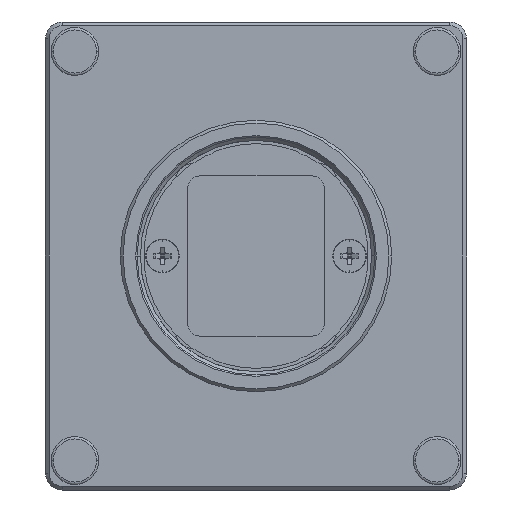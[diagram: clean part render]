
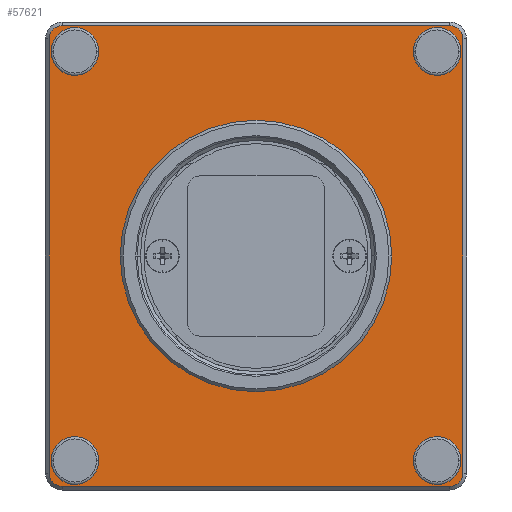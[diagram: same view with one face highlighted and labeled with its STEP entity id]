
A CAD part, left-side view. The second image highlights one B-rep face of the part: STEP entity #57621.
In plain terms, the highlighted planar face has unit normal (-1, 0, 0).
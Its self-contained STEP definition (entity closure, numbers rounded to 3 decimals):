
#9956=CARTESIAN_POINT('',(-9.,20.7,23.2));
#9957=DIRECTION('',(1.,0.,0.));
#9958=DIRECTION('',(0.,1.,0.));
#9959=AXIS2_PLACEMENT_3D('',#9956,#9957,#9958);
#9961=DIRECTION('',(0.,-1.,0.));
#9962=VECTOR('',#9961,41.4);
#9963=CARTESIAN_POINT('',(-9.,20.7,24.6));
#9964=LINE('',#9963,#9962);
#9965=CARTESIAN_POINT('',(-9.,-20.7,23.2));
#9966=DIRECTION('',(1.,0.,0.));
#9967=DIRECTION('',(0.,0.,1.));
#9968=AXIS2_PLACEMENT_3D('',#9965,#9966,#9967);
#9970=DIRECTION('',(0.,0.,-1.));
#9971=VECTOR('',#9970,46.4);
#9972=CARTESIAN_POINT('',(-9.,-22.1,23.2));
#9973=LINE('',#9972,#9971);
#9974=CARTESIAN_POINT('',(-9.,-20.7,-23.2));
#9975=DIRECTION('',(1.,0.,0.));
#9976=DIRECTION('',(0.,-1.,0.));
#9977=AXIS2_PLACEMENT_3D('',#9974,#9975,#9976);
#9979=DIRECTION('',(0.,1.,0.));
#9980=VECTOR('',#9979,41.4);
#9981=CARTESIAN_POINT('',(-9.,-20.7,-24.6));
#9982=LINE('',#9981,#9980);
#9983=CARTESIAN_POINT('',(-9.,20.7,-23.2));
#9984=DIRECTION('',(1.,0.,0.));
#9985=DIRECTION('',(0.,0.,-1.));
#9986=AXIS2_PLACEMENT_3D('',#9983,#9984,#9985);
#9988=DIRECTION('',(0.,0.,1.));
#9989=VECTOR('',#9988,46.4);
#9990=CARTESIAN_POINT('',(-9.,22.1,-23.2));
#9991=LINE('',#9990,#9989);
#9992=CARTESIAN_POINT('',(-9.,19.351,-21.851));
#9993=DIRECTION('',(-1.,0.,0.));
#9994=DIRECTION('',(0.,0.,1.));
#9995=AXIS2_PLACEMENT_3D('',#9992,#9993,#9994);
#9997=CARTESIAN_POINT('',(-9.,19.351,-21.851));
#9998=DIRECTION('',(-1.,0.,0.));
#9999=DIRECTION('',(0.,0.,-1.));
#10000=AXIS2_PLACEMENT_3D('',#9997,#9998,#9999);
#10002=CARTESIAN_POINT('',(-9.,19.351,21.851));
#10003=DIRECTION('',(-1.,0.,0.));
#10004=DIRECTION('',(0.,0.,1.));
#10005=AXIS2_PLACEMENT_3D('',#10002,#10003,#10004);
#10007=CARTESIAN_POINT('',(-9.,19.351,21.851));
#10008=DIRECTION('',(-1.,0.,0.));
#10009=DIRECTION('',(0.,0.,-1.));
#10010=AXIS2_PLACEMENT_3D('',#10007,#10008,#10009);
#10012=CARTESIAN_POINT('',(-9.,-19.351,21.851));
#10013=DIRECTION('',(-1.,0.,0.));
#10014=DIRECTION('',(0.,0.,1.));
#10015=AXIS2_PLACEMENT_3D('',#10012,#10013,#10014);
#10017=CARTESIAN_POINT('',(-9.,-19.351,21.851));
#10018=DIRECTION('',(-1.,0.,0.));
#10019=DIRECTION('',(0.,0.,-1.));
#10020=AXIS2_PLACEMENT_3D('',#10017,#10018,#10019);
#10022=CARTESIAN_POINT('',(-9.,-19.351,-21.851));
#10023=DIRECTION('',(-1.,0.,0.));
#10024=DIRECTION('',(0.,0.,1.));
#10025=AXIS2_PLACEMENT_3D('',#10022,#10023,#10024);
#10027=CARTESIAN_POINT('',(-9.,-19.351,-21.851));
#10028=DIRECTION('',(-1.,0.,0.));
#10029=DIRECTION('',(0.,0.,-1.));
#10030=AXIS2_PLACEMENT_3D('',#10027,#10028,#10029);
#10032=CARTESIAN_POINT('',(-9.,0.,0.));
#10033=DIRECTION('',(-1.,0.,0.));
#10034=DIRECTION('',(0.,1.,0.));
#10035=AXIS2_PLACEMENT_3D('',#10032,#10033,#10034);
#10037=CARTESIAN_POINT('',(-9.,0.,0.));
#10038=DIRECTION('',(-1.,0.,0.));
#10039=DIRECTION('',(0.,-1.,0.));
#10040=AXIS2_PLACEMENT_3D('',#10037,#10038,#10039);
#42669=CARTESIAN_POINT('',(-9.,-22.1,23.2));
#42670=VERTEX_POINT('',#42669);
#42671=CARTESIAN_POINT('',(-9.,-20.7,24.6));
#42672=VERTEX_POINT('',#42671);
#42673=CARTESIAN_POINT('',(-9.,-22.1,-23.2));
#42674=VERTEX_POINT('',#42673);
#42679=CARTESIAN_POINT('',(-9.,-20.7,-24.6));
#42680=VERTEX_POINT('',#42679);
#42681=CARTESIAN_POINT('',(-9.,20.7,-24.6));
#42682=VERTEX_POINT('',#42681);
#42695=CARTESIAN_POINT('',(-9.,22.1,-23.2));
#42696=VERTEX_POINT('',#42695);
#42697=CARTESIAN_POINT('',(-9.,22.1,23.2));
#42698=VERTEX_POINT('',#42697);
#42711=CARTESIAN_POINT('',(-9.,20.7,24.6));
#42712=VERTEX_POINT('',#42711);
#42741=CARTESIAN_POINT('',(-9.,19.351,-19.301));
#42742=CARTESIAN_POINT('',(-9.,19.351,-24.401));
#42743=VERTEX_POINT('',#42741);
#42744=VERTEX_POINT('',#42742);
#42745=CARTESIAN_POINT('',(-9.,19.351,24.401));
#42746=CARTESIAN_POINT('',(-9.,19.351,19.301));
#42747=VERTEX_POINT('',#42745);
#42748=VERTEX_POINT('',#42746);
#42749=CARTESIAN_POINT('',(-9.,-19.351,24.401));
#42750=CARTESIAN_POINT('',(-9.,-19.351,19.301));
#42751=VERTEX_POINT('',#42749);
#42752=VERTEX_POINT('',#42750);
#42753=CARTESIAN_POINT('',(-9.,-19.351,-19.301));
#42754=CARTESIAN_POINT('',(-9.,-19.351,-24.401));
#42755=VERTEX_POINT('',#42753);
#42756=VERTEX_POINT('',#42754);
#42757=CARTESIAN_POINT('',(-9.,14.5,0.));
#42758=CARTESIAN_POINT('',(-9.,-14.5,0.));
#42759=VERTEX_POINT('',#42757);
#42760=VERTEX_POINT('',#42758);
#57576=CARTESIAN_POINT('',(-9.,0.,0.));
#57577=DIRECTION('',(1.,0.,0.));
#57578=DIRECTION('',(0.,1.,0.));
#57579=AXIS2_PLACEMENT_3D('',#57576,#57577,#57578);
#57580=PLANE('',#57579);
#57581=ORIENTED_EDGE('',*,*,#57372,.T.);
#57582=ORIENTED_EDGE('',*,*,#57386,.T.);
#57583=ORIENTED_EDGE('',*,*,#57167,.T.);
#57584=ORIENTED_EDGE('',*,*,#57183,.T.);
#57585=ORIENTED_EDGE('',*,*,#57236,.T.);
#57586=ORIENTED_EDGE('',*,*,#57251,.T.);
#57587=ORIENTED_EDGE('',*,*,#57304,.T.);
#57588=ORIENTED_EDGE('',*,*,#57319,.T.);
#57589=EDGE_LOOP('',(#57581,#57582,#57583,#57584,#57585,#57586,#57587,#57588));
#57590=FACE_OUTER_BOUND('',#57589,.F.);
#57592=ORIENTED_EDGE('',*,*,#57591,.T.);
#57594=ORIENTED_EDGE('',*,*,#57593,.T.);
#57595=EDGE_LOOP('',(#57592,#57594));
#57596=FACE_BOUND('',#57595,.F.);
#57598=ORIENTED_EDGE('',*,*,#57597,.T.);
#57600=ORIENTED_EDGE('',*,*,#57599,.T.);
#57601=EDGE_LOOP('',(#57598,#57600));
#57602=FACE_BOUND('',#57601,.F.);
#57604=ORIENTED_EDGE('',*,*,#57603,.T.);
#57606=ORIENTED_EDGE('',*,*,#57605,.T.);
#57607=EDGE_LOOP('',(#57604,#57606));
#57608=FACE_BOUND('',#57607,.F.);
#57610=ORIENTED_EDGE('',*,*,#57609,.T.);
#57612=ORIENTED_EDGE('',*,*,#57611,.T.);
#57613=EDGE_LOOP('',(#57610,#57612));
#57614=FACE_BOUND('',#57613,.F.);
#57616=ORIENTED_EDGE('',*,*,#57615,.T.);
#57618=ORIENTED_EDGE('',*,*,#57617,.T.);
#57619=EDGE_LOOP('',(#57616,#57618));
#57620=FACE_BOUND('',#57619,.F.);
#57621=ADVANCED_FACE('',(#57590,#57596,#57602,#57608,#57614,#57620),#57580,.F.);
#9960=CIRCLE('',#9959,1.4);
#9969=CIRCLE('',#9968,1.4);
#9978=CIRCLE('',#9977,1.4);
#9987=CIRCLE('',#9986,1.4);
#9996=CIRCLE('',#9995,2.55);
#10001=CIRCLE('',#10000,2.55);
#10006=CIRCLE('',#10005,2.55);
#10011=CIRCLE('',#10010,2.55);
#10016=CIRCLE('',#10015,2.55);
#10021=CIRCLE('',#10020,2.55);
#10026=CIRCLE('',#10025,2.55);
#10031=CIRCLE('',#10030,2.55);
#10036=CIRCLE('',#10035,14.5);
#10041=CIRCLE('',#10040,14.5);
#57167=EDGE_CURVE('',#42672,#42670,#9969,.T.);
#57183=EDGE_CURVE('',#42670,#42674,#9973,.T.);
#57236=EDGE_CURVE('',#42674,#42680,#9978,.T.);
#57251=EDGE_CURVE('',#42680,#42682,#9982,.T.);
#57304=EDGE_CURVE('',#42682,#42696,#9987,.T.);
#57319=EDGE_CURVE('',#42696,#42698,#9991,.T.);
#57372=EDGE_CURVE('',#42698,#42712,#9960,.T.);
#57386=EDGE_CURVE('',#42712,#42672,#9964,.T.);
#57591=EDGE_CURVE('',#42743,#42744,#9996,.T.);
#57593=EDGE_CURVE('',#42744,#42743,#10001,.T.);
#57597=EDGE_CURVE('',#42747,#42748,#10006,.T.);
#57599=EDGE_CURVE('',#42748,#42747,#10011,.T.);
#57603=EDGE_CURVE('',#42751,#42752,#10016,.T.);
#57605=EDGE_CURVE('',#42752,#42751,#10021,.T.);
#57609=EDGE_CURVE('',#42755,#42756,#10026,.T.);
#57611=EDGE_CURVE('',#42756,#42755,#10031,.T.);
#57615=EDGE_CURVE('',#42759,#42760,#10036,.T.);
#57617=EDGE_CURVE('',#42760,#42759,#10041,.T.);
